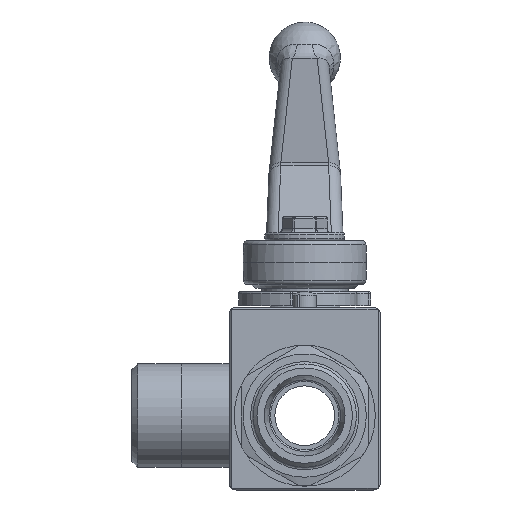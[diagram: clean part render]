
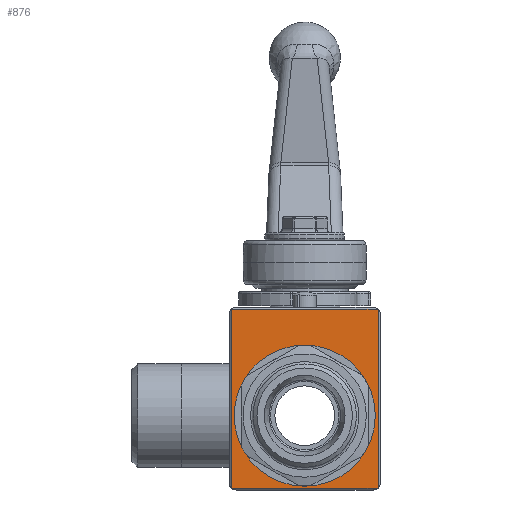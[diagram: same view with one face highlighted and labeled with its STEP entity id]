
A CAD part, front view. The second image highlights one B-rep face of the part: STEP entity #876.
In plain terms, the highlighted planar face has unit normal (0, -1, 0).
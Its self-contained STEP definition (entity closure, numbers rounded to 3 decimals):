
#876 = ADVANCED_FACE( '', ( #1897, #1898 ), #1899, .T. );
#1897 = FACE_OUTER_BOUND( '', #3377, .T. );
#1898 = FACE_BOUND( '', #3378, .T. );
#1899 = PLANE( '', #3379 );
#3377 = EDGE_LOOP( '', ( #5951, #5952, #5953, #5954, #5955, #5956, #5957, #5958 ) );
#3378 = EDGE_LOOP( '', ( #5959 ) );
#3379 = AXIS2_PLACEMENT_3D( '', #5960, #5961, #5962 );
#5951 = ORIENTED_EDGE( '', *, *, #8654, .T. );
#5952 = ORIENTED_EDGE( '', *, *, #8655, .T. );
#5953 = ORIENTED_EDGE( '', *, *, #8123, .T. );
#5954 = ORIENTED_EDGE( '', *, *, #8656, .T. );
#5955 = ORIENTED_EDGE( '', *, *, #8657, .T. );
#5956 = ORIENTED_EDGE( '', *, *, #8079, .T. );
#5957 = ORIENTED_EDGE( '', *, *, #8170, .T. );
#5958 = ORIENTED_EDGE( '', *, *, #8658, .T. );
#5959 = ORIENTED_EDGE( '', *, *, #8406, .T. );
#5960 = CARTESIAN_POINT( '', ( -19., -24.1, -18.7 ) );
#5961 = DIRECTION( '', ( 0., -1., 0. ) );
#5962 = DIRECTION( '', ( 0., 0., -1. ) );
#8079 = EDGE_CURVE( '', #9349, #9361, #9363, .T. );
#8123 = EDGE_CURVE( '', #9444, #9445, #9446, .T. );
#8170 = EDGE_CURVE( '', #9361, #9526, #9527, .T. );
#8406 = EDGE_CURVE( '', #9915, #9915, #9916, .T. );
#8654 = EDGE_CURVE( '', #10287, #10288, #10289, .T. );
#8655 = EDGE_CURVE( '', #10288, #9444, #10290, .T. );
#8656 = EDGE_CURVE( '', #9445, #10291, #10292, .T. );
#8657 = EDGE_CURVE( '', #10291, #9349, #10293, .T. );
#8658 = EDGE_CURVE( '', #9526, #10287, #10294, .T. );
#9349 = VERTEX_POINT( '', #11181 );
#9361 = VERTEX_POINT( '', #11195 );
#9363 = CIRCLE( '', #11197, 1.8 );
#9444 = VERTEX_POINT( '', #11290 );
#9445 = VERTEX_POINT( '', #11291 );
#9446 = LINE( '', #11292, #11293 );
#9526 = VERTEX_POINT( '', #11477 );
#9527 = LINE( '', #11478, #11479 );
#9915 = VERTEX_POINT( '', #12099 );
#9916 = CIRCLE( '', #12100, 17.75 );
#10287 = VERTEX_POINT( '', #12748 );
#10288 = VERTEX_POINT( '', #12749 );
#10289 = LINE( '', #12750, #12751 );
#10290 = CIRCLE( '', #12752, 1.8 );
#10291 = VERTEX_POINT( '', #12753 );
#10292 = CIRCLE( '', #12754, 1.8 );
#10293 = LINE( '', #12755, #12756 );
#10294 = CIRCLE( '', #12757, 1.8 );
#11181 = CARTESIAN_POINT( '', ( 18.5, -24.1, 26.745 ) );
#11195 = CARTESIAN_POINT( '', ( 18.445, -24.1, 26.8 ) );
#11197 = AXIS2_PLACEMENT_3D( '', #14475, #14476, #14477 );
#11290 = CARTESIAN_POINT( '', ( -18.445, -24.1, -18.2 ) );
#11291 = CARTESIAN_POINT( '', ( 18.445, -24.1, -18.2 ) );
#11292 = CARTESIAN_POINT( '', ( 19., -24.1, -18.2 ) );
#11293 = VECTOR( '', #14565, 1000. );
#11477 = CARTESIAN_POINT( '', ( -18.445, -24.1, 26.8 ) );
#11478 = CARTESIAN_POINT( '', ( -19., -24.1, 26.8 ) );
#11479 = VECTOR( '', #14626, 1000. );
#12099 = CARTESIAN_POINT( '', ( 17.75, -24.1, 0. ) );
#12100 = AXIS2_PLACEMENT_3D( '', #14962, #14963, #14964 );
#12748 = CARTESIAN_POINT( '', ( -18.5, -24.1, 26.745 ) );
#12749 = CARTESIAN_POINT( '', ( -18.5, -24.1, -18.145 ) );
#12750 = CARTESIAN_POINT( '', ( -18.5, -24.1, -18.7 ) );
#12751 = VECTOR( '', #15269, 1000. );
#12752 = AXIS2_PLACEMENT_3D( '', #15270, #15271, #15272 );
#12753 = CARTESIAN_POINT( '', ( 18.5, -24.1, -18.145 ) );
#12754 = AXIS2_PLACEMENT_3D( '', #15273, #15274, #15275 );
#12755 = CARTESIAN_POINT( '', ( 18.5, -24.1, 27.3 ) );
#12756 = VECTOR( '', #15276, 1000. );
#12757 = AXIS2_PLACEMENT_3D( '', #15277, #15278, #15279 );
#14475 = CARTESIAN_POINT( '', ( 17.2, -24.1, 25.5 ) );
#14476 = DIRECTION( '', ( 0., -1., 0. ) );
#14477 = DIRECTION( '', ( 0., 0., -1. ) );
#14565 = DIRECTION( '', ( 1., 0., 0. ) );
#14626 = DIRECTION( '', ( -1., 0., 0. ) );
#14962 = CARTESIAN_POINT( '', ( 0., -24.1, 0. ) );
#14963 = DIRECTION( '', ( 0., 1., 0. ) );
#14964 = DIRECTION( '', ( 1., 0., 0. ) );
#15269 = DIRECTION( '', ( 0., 0., -1. ) );
#15270 = CARTESIAN_POINT( '', ( -17.2, -24.1, -16.9 ) );
#15271 = DIRECTION( '', ( 0., -1., 0. ) );
#15272 = DIRECTION( '', ( 0., 0., -1. ) );
#15273 = CARTESIAN_POINT( '', ( 17.2, -24.1, -16.9 ) );
#15274 = DIRECTION( '', ( 0., -1., 0. ) );
#15275 = DIRECTION( '', ( 0., 0., -1. ) );
#15276 = DIRECTION( '', ( 0., 0., 1. ) );
#15277 = CARTESIAN_POINT( '', ( -17.2, -24.1, 25.5 ) );
#15278 = DIRECTION( '', ( 0., -1., 0. ) );
#15279 = DIRECTION( '', ( 0., 0., -1. ) );
